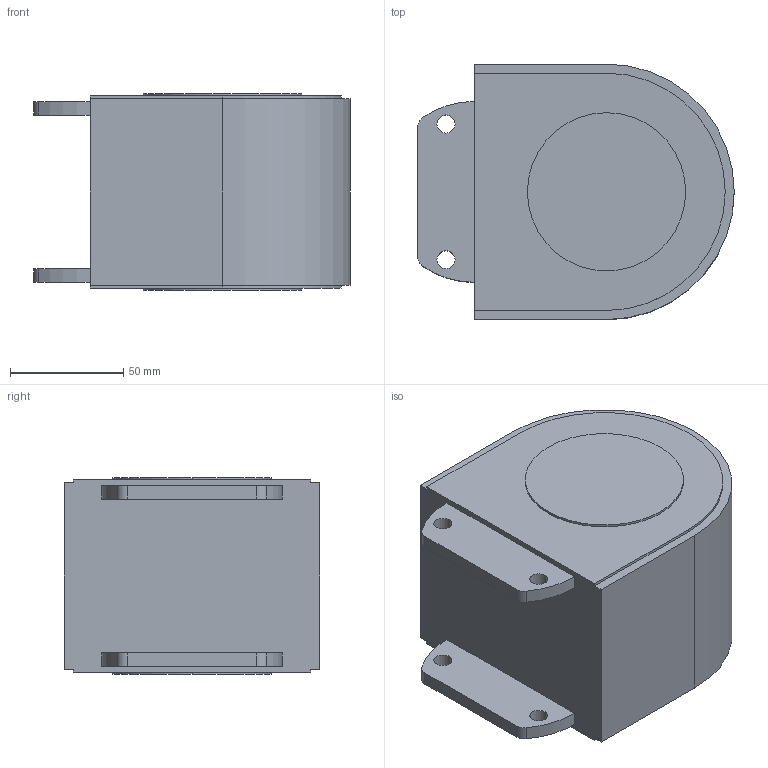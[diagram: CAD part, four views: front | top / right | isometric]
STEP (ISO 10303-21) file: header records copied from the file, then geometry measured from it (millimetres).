
FILE_DESCRIPTION (( 'STEP AP214' ), '1' );
FILE_NAME ('VC.85 Omloopsectie Z8.STEP', '2016-10-19T07:10:00', ( '' ), ( '' ), 'SwSTEP 2.0', 'SolidWorks 2016', '' );
FILE_SCHEMA (( 'AUTOMOTIVE_DESIGN' ));
Length unit declared in the file: millimetre
Products named in the file (1): VC.85 Omloopsectie Z8
Bounding box: 140 x 113 x 87 mm (x, y, z)
Volume: 1014087.6 mm3; surface area: 66342.3 mm2
Topology: 1 solids, 1 shells, 42 faces, 108 edges, 72 vertices
Faces by surface type: cylinder 23, plane 19
Entity records: 1348 total; most frequent: DIRECTION 240, CARTESIAN_POINT 223, ORIENTED_EDGE 216, EDGE_CURVE 108, AXIS2_PLACEMENT_3D 89, VERTEX_POINT 72, VECTOR 62, LINE 62
